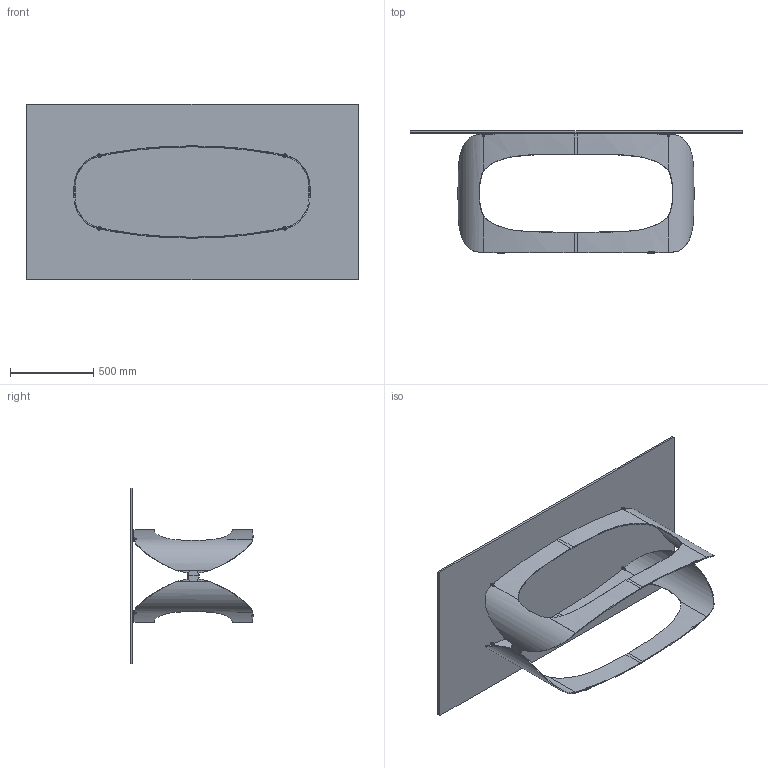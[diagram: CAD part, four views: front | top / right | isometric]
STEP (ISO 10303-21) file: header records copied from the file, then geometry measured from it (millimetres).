
FILE_DESCRIPTION (( 'STEP AP203' ), '1' );
FILE_NAME ('PO21G.STEP', '2024-08-06T14:08:16', ( '' ), ( '' ), 'SwSTEP 2.0', 'SolidWorks 2022', '' );
FILE_SCHEMA (( 'CONFIG_CONTROL_DESIGN' ));
Length unit declared in the file: millimetre
Products named in the file (11): PVC profilo Polifemo 9x8; POL000000_03B-00-POLIFEMO FREGIO; POL000000-00-POLIFEMO BASE X PIANI 200-240_POL000000-00-POLIFEMO BASE L160; PVC Ø19x3; PST0GR022-01-PIASTRA D22x22H mm+FILETTO M8 AVP-AVZ GREZZO; POL000000_02-02-CILINDRO DI FISSAGGIO Ø12X15 M8; POL000000_01-01-MEZZA BASE POLIFEMO X PIANI 200-240_POL000000_03-00-MEZZA BASE PLIFEMO L160; C2XCRXX-00-Piani Rettangolari Cristallo_21 2000x1060; POL000000_03A-01-POLIFEMO FREGIO; POL000000_03-01-POLIFEMO FREGIO COMPLETO; PO21G
Assembly tree (24 placements, depth 3):
  PO21G
    POL000000-00-POLIFEMO BASE X PIANI 200-240_POL000000-00-POLIFEMO BASE L160
      POL000000_01-01-MEZZA BASE POLIFEMO X PIANI 200-240_POL000000_03-00-MEZZA BASE PLIFEMO L160  x2
      POL000000_02-02-CILINDRO DI FISSAGGIO Ø12X15 M8  x4
    POL000000_03-01-POLIFEMO FREGIO COMPLETO  x2
      POL000000_03A-01-POLIFEMO FREGIO
      POL000000_03B-00-POLIFEMO FREGIO
    PST0GR022-01-PIASTRA D22x22H mm+FILETTO M8 AVP-AVZ GREZZO  x4
    PVC Ø19x3  x4
    PVC profilo Polifemo 9x8  x3
    C2XCRXX-00-Piani Rettangolari Cristallo_21 2000x1060
Bounding box: 2000 x 736.97 x 1060 mm (x, y, z)
Volume: 32656389.8 mm3; surface area: 6840056.6 mm2
Topology: 24 solids, 24 shells, 476 faces, 1180 edges, 758 vertices
Faces by surface type: cylinder 221, plane 155, bspline 80, cone 20
Entity records: 16748 total; most frequent: CARTESIAN_POINT 11196, ORIENTED_EDGE 904, DIRECTION 749, EDGE_CURVE 452, VERTEX_POINT 290, AXIS2_PLACEMENT_3D 280, VECTOR 189, LINE 189
